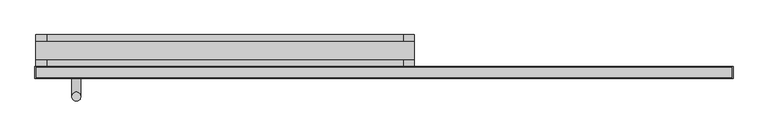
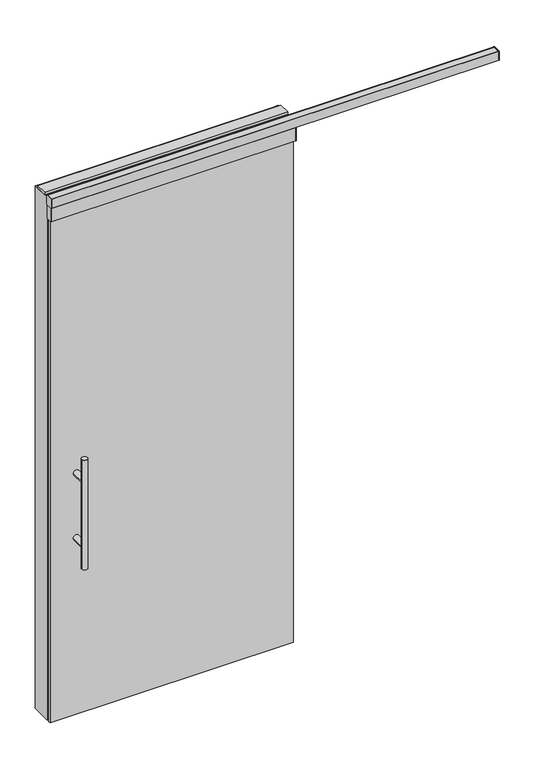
"""IFC4 building model written with IfcOpenShell, lengths in millimetres: furniture geometry, Allsteel - Aspect - Door - Single - Sliding (10-04-24) : Allsteel - Aspect - Door - Single - Sliding (10-04-24)."""

from ifc_helpers import new_model, si_unit, frame, origin, origin_with_axes, place, context, project, spatial, polyline, circle_curve, ellipse_curve, outline, extrude, source, transform, mapped, element, save
from ifc_brep_helpers import plane_surface, cylinder_surface, advanced_brep


def furniture_55cdaa34(model_context):
    return source(origin(), model_context, "Body", "SolidModel", [
        advanced_brep(
        [(101.6, -130.175003, 717.55), (127.0, -130.175003, 717.55), (101.6, -130.175003, 1225.55), (127.0, -130.175003, 1225.55), (101.6, -130.175003, 821.2990101), (127.0, -130.175003, 821.2990101), (127.0, -130.175003, 1121.8183073), (101.6, -130.175003, 1121.8183073), (101.6, -66.675, 1121.8183073), (127.0, -66.675, 1121.8183073), (101.6, -66.675, 821.2990101), (127.0, -66.675, 821.2990101)],
        [
            (0, 1, circle_curve(frame((114.3, -130.175003, 717.55), z_axis=(0.0, 0.0, -1.0), x_axis=(1.0, 0.0, 0.0)), 12.7)),
            (1, 0, circle_curve(frame((114.3, -130.175003, 717.55), z_axis=(0.0, 0.0, -1.0), x_axis=(1.0, 0.0, 0.0)), 12.7)),
            (2, 3, circle_curve(frame((114.3, -130.175003, 1225.55), z_axis=(0.0, 0.0, 1.0), x_axis=(1.0, 0.0, 0.0)), 12.7)),
            (3, 2, circle_curve(frame((114.3, -130.175003, 1225.55), z_axis=(0.0, 0.0, 1.0), x_axis=(1.0, 0.0, 0.0)), 12.7)),
            (0, 4),
            (4, 5, ellipse_curve(frame((114.3, -130.175003, 821.2990101), z_axis=(0.0, -0.7071067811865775, -0.7071067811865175), x_axis=(0.0, 0.7071067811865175, -0.7071067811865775)), 17.9605122, 12.7)),
            (5, 1),
            (3, 6),
            (6, 7, ellipse_curve(frame((114.3, -130.175003, 1121.8183073), z_axis=(0.0, -0.7071067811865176, 0.7071067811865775), x_axis=(0.0, -0.7071067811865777, -0.7071067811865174)), 17.9605122, 12.7)),
            (7, 2),
            (7, 6, ellipse_curve(frame((114.3, -130.175003, 1121.8183073), z_axis=(0.0, -0.7071067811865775, -0.7071067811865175), x_axis=(0.0, 0.7071067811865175, -0.7071067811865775)), 17.9605122, 12.7)),
            (6, 5),
            (5, 4, ellipse_curve(frame((114.3, -130.175003, 821.2990101), z_axis=(0.0, -0.7071067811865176, 0.7071067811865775), x_axis=(0.0, -0.7071067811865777, -0.7071067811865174)), 17.9605122, 12.7)),
            (4, 7),
            (8, 9, circle_curve(frame((114.3, -66.675, 1121.8183073), z_axis=(0.0, 1.0, 0.0), x_axis=(1.0, 0.0, 0.0)), 12.7)),
            (9, 8, circle_curve(frame((114.3, -66.675, 1121.8183073), z_axis=(0.0, 1.0, 0.0), x_axis=(1.0, 0.0, 0.0)), 12.7)),
            (9, 6),
            (7, 8),
            (10, 11, circle_curve(frame((114.3, -66.675, 821.2990101), z_axis=(0.0, 1.0, 0.0), x_axis=(1.0, 0.0, 0.0)), 12.7)),
            (11, 10, circle_curve(frame((114.3, -66.675, 821.2990101), z_axis=(0.0, 1.0, 0.0), x_axis=(1.0, 0.0, 0.0)), 12.7)),
            (10, 4),
            (5, 11),
        ],
        [
            plane_surface(frame((127.0, -130.175003, 717.55), z_axis=(0.0, 0.0, -1.0), x_axis=(0.0, -1.0, 0.0))),
            plane_surface(frame((127.0, -130.175003, 1225.55), z_axis=(0.0, 0.0, 1.0), x_axis=(0.0, 1.0, 0.0))),
            cylinder_surface(frame((114.3, -130.175003, 1225.55), z_axis=(0.0, 0.0, -1.0), x_axis=(1.0, 0.0, 0.0)), 12.7),
            plane_surface(frame((127.0, -66.675, 1121.8183073), z_axis=(0.0, 1.0, 0.0), x_axis=(0.0, 0.0, -1.0))),
            cylinder_surface(frame((114.3, -66.675, 1121.8183073), z_axis=(0.0, -1.0, 0.0), x_axis=(1.0, 0.0, 0.0)), 12.7),
            plane_surface(frame((127.0, -66.675, 821.2990101), z_axis=(0.0, 1.0, 0.0), x_axis=(0.0, 0.0, -1.0))),
            cylinder_surface(frame((114.3, -66.675, 821.2990101), z_axis=(0.0, -1.0, 0.0), x_axis=(1.0, 0.0, 0.0)), 12.7),
        ],
        [
            (0, [[1, 2]]),
            (1, [[3, 4]]),
            (2, [[-1, 5, 6, 7]]),
            (2, [[-4, 8, 9, 10]]),
            (2, [[11, 12, 13, 14]]),
            (2, [[-2, -7, -12, -8, -3, -10, -14, -5]]),
            (3, [[15, 16]]),
            (4, [[-16, 17, -11, 18]]),
            (4, [[-15, -18, -9, -17]]),
            (5, [[19, 20]]),
            (6, [[-19, 21, -13, 22]]),
            (6, [[-20, -22, -6, -21]]),
        ],
    ),
        advanced_brep(
        [(101.6, 6.350003, 717.55), (127.0, 6.350003, 717.55), (101.6, 6.350003, 1225.55), (127.0, 6.350003, 1225.55), (101.6, 6.350003, 1121.8183073), (127.0, 6.350003, 1121.8183073), (101.6, 6.350003, 821.2990101), (127.0, 6.350003, 821.2990101), (101.6, -57.15, 1121.8183073), (127.0, -57.15, 1121.8183073), (101.6, -57.15, 821.2990101), (127.0, -57.15, 821.2990101)],
        [
            (0, 1, circle_curve(frame((114.3, 6.350003, 717.55), z_axis=(0.0, 0.0, -1.0), x_axis=(1.0, 0.0, 0.0)), 12.7)),
            (1, 0, circle_curve(frame((114.3, 6.350003, 717.55), z_axis=(0.0, 0.0, -1.0), x_axis=(1.0, 0.0, 0.0)), 12.7)),
            (2, 3, circle_curve(frame((114.3, 6.350003, 1225.55), z_axis=(0.0, 0.0, 1.0), x_axis=(1.0, 0.0, 0.0)), 12.7)),
            (3, 2, circle_curve(frame((114.3, 6.350003, 1225.55), z_axis=(0.0, 0.0, 1.0), x_axis=(1.0, 0.0, 0.0)), 12.7)),
            (2, 4),
            (4, 5, ellipse_curve(frame((114.3, 6.350003, 1121.8183073), z_axis=(0.0, 0.7071067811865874, 0.7071067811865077), x_axis=(0.0, 0.7071067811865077, -0.7071067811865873)), 17.9605122, 12.7)),
            (5, 3),
            (4, 6),
            (6, 7, ellipse_curve(frame((114.3, 6.350003, 821.2990101), z_axis=(0.0, 0.7071067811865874, 0.7071067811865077), x_axis=(0.0, 0.7071067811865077, -0.7071067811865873)), 17.9605122, 12.7)),
            (7, 5),
            (5, 4, ellipse_curve(frame((114.3, 6.350003, 1121.8183073), z_axis=(0.0, 0.7071067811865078, -0.7071067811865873), x_axis=(0.0, -0.7071067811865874, -0.7071067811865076)), 17.9605122, 12.7)),
            (1, 7),
            (7, 6, ellipse_curve(frame((114.3, 6.350003, 821.2990101), z_axis=(0.0, 0.7071067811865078, -0.7071067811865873), x_axis=(0.0, -0.7071067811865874, -0.7071067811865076)), 17.9605122, 12.7)),
            (6, 0),
            (8, 9, circle_curve(frame((114.3, -57.15, 1121.8183073), z_axis=(0.0, -1.0, 0.0), x_axis=(1.0, 0.0, 0.0)), 12.7)),
            (9, 8, circle_curve(frame((114.3, -57.15, 1121.8183073), z_axis=(0.0, -1.0, 0.0), x_axis=(1.0, 0.0, 0.0)), 12.7)),
            (8, 4),
            (5, 9),
            (10, 11, circle_curve(frame((114.3, -57.15, 821.2990101), z_axis=(0.0, -1.0, 0.0), x_axis=(1.0, 0.0, 0.0)), 12.7)),
            (11, 10, circle_curve(frame((114.3, -57.15, 821.2990101), z_axis=(0.0, -1.0, 0.0), x_axis=(1.0, 0.0, 0.0)), 12.7)),
            (11, 7),
            (6, 10),
        ],
        [
            plane_surface(frame((127.0, 6.350003, 717.55), z_axis=(0.0, 0.0, -1.0), x_axis=(0.0, 1.0, 0.0))),
            plane_surface(frame((127.0, 6.350003, 1225.55), z_axis=(0.0, 0.0, 1.0), x_axis=(0.0, -1.0, 0.0))),
            cylinder_surface(frame((114.3, 6.350003, 1225.55), z_axis=(0.0, 0.0, -1.0), x_axis=(1.0, 0.0, 0.0)), 12.7),
            plane_surface(frame((127.0, -57.15, 1121.8183073), z_axis=(0.0, -1.0, 0.0), x_axis=(0.0, 0.0, -1.0))),
            cylinder_surface(frame((114.3, -57.15, 1121.8183073), z_axis=(0.0, 1.0, 0.0), x_axis=(1.0, 0.0, 0.0)), 12.7),
            plane_surface(frame((127.0, -57.15, 821.2990101), z_axis=(0.0, -1.0, 0.0), x_axis=(0.0, 0.0, -1.0))),
            cylinder_surface(frame((114.3, -57.15, 821.2990101), z_axis=(0.0, 1.0, 0.0), x_axis=(1.0, 0.0, 0.0)), 12.7),
        ],
        [
            (0, [[1, 2]]),
            (1, [[3, 4]]),
            (2, [[5, 6, 7, -3]]),
            (2, [[8, 9, 10, 11]]),
            (2, [[12, 13, 14, -2]]),
            (2, [[-14, -8, -5, -4, -7, -10, -12, -1]]),
            (3, [[15, 16]]),
            (4, [[17, -11, 18, -15]]),
            (4, [[-18, -6, -17, -16]]),
            (5, [[19, 20]]),
            (6, [[21, -9, 22, -20]]),
            (6, [[-22, -13, -21, -19]]),
        ],
    ),
        extrude(outline(polyline([(-2.5399612, -45.0580237), (0.0, -45.0580237), (0.0, -78.7923987), (-2.5399612, -78.7923987), (-2.5399612, -45.0580237)])), frame((0.0, 0.0, 2395.6367187), z_axis=(0.0, 0.0, 1.0), x_axis=(1.0, 0.0, 0.0)), (0.0, 0.0, 1.0), 42.7632813),
        extrude(outline(polyline([(1964.6899612, -78.7923987), (1962.15, -78.7923987), (1962.15, -45.0580237), (1964.6899612, -45.0580237), (1964.6899612, -78.7923987)])), frame((0.0, 0.0, 2395.6367188), z_axis=(0.0, 0.0, 1.0), x_axis=(1.0, 0.0, 0.0)), (0.0, 0.0, 1.0), 42.7632813),
        extrude(outline(polyline([(1075.6823854, -76.2026964), (1073.1424242, -76.2026964), (1073.1424242, -47.6478714), (1075.6823854, -47.6478714), (1075.6823854, -76.2026964)])), frame((0.0, 0.0, 2332.0374031), z_axis=(0.0, 0.0, 1.0), x_axis=(1.0, 0.0, 0.0)), (0.0, 0.0, 1.0), 60.3250969),
        extrude(outline(polyline([(-2.5475371, -47.647726), (-0.0075758, -47.647726), (-0.0075758, -76.202551), (-2.5475371, -76.202551), (-2.5475371, -47.647726)])), frame((0.0, 0.0, 2332.0374031), z_axis=(0.0, 0.0, 1.0), x_axis=(1.0, 0.0, 0.0)), (0.0, 0.0, 1.0), 60.3250969),
        extrude(outline(polyline([(-53.0500126, 2392.3625), (-47.647726, 2392.3625), (-47.647726, 2332.0374031), (-55.7190084, 2332.0374031), (-55.7190084, 2339.9906967), (-54.1315084, 2339.9906967), (-54.1315084, 2333.6249031), (-49.235226, 2333.6249031), (-49.235226, 2358.9630852), (-55.7190084, 2358.9630852), (-55.7190084, 2370.1321709), (-68.1314139, 2370.1321709), (-68.1314139, 2358.9630852), (-74.6151964, 2358.9630852), (-74.6151964, 2333.6249031), (-69.7189139, 2333.6249031), (-69.7189139, 2339.9906967), (-68.1314139, 2339.9906967), (-68.1314139, 2332.0374031), (-76.2027054, 2332.0374031), (-76.2027054, 2392.3625), (-70.8004098, 2392.3625), (-70.8004098, 2390.775), (-74.6152054, 2390.775), (-74.6152054, 2382.4479889), (-49.235226, 2382.4479889), (-49.235226, 2390.775), (-53.0500126, 2390.775), (-53.0500126, 2392.3625)])), frame((-0.0075758, 0.0, 0.0), z_axis=(1.0, 0.0, 0.0), x_axis=(0.0, 1.0, 0.0)), (0.0, 0.0, 1.0), 1073.15),
        extrude(outline(polyline([(-46.5923262, 2438.4), (-45.0698174, 2438.4), (-45.0698174, 2395.6014496), (-55.0469701, 2395.6014496), (-55.0469701, 2397.1889496), (-46.6573174, 2397.1889496), (-46.6573174, 2434.7780312), (-77.1930959, 2434.7780312), (-77.1930959, 2397.1889496), (-68.8034523, 2397.1889496), (-68.8034523, 2395.6014496), (-78.7805959, 2395.6014496), (-78.7805959, 2438.4), (-77.2580871, 2438.4), (-77.2580871, 2436.3655312), (-46.5923262, 2436.3655312), (-46.5923262, 2438.4)])), frame((0.0, 0.0, 0.0), z_axis=(1.0, 0.0, 0.0), x_axis=(0.0, 1.0, 0.0)), (0.0, 0.0, 1.0), 1962.15),
        extrude(outline(polyline([(1066.8, -25.4), (0.0, -25.4), (0.0, 25.4), (1066.8, 25.4), (1066.8, -25.4)])), frame((0.0, 0.0, 2425.7), z_axis=(0.0, 0.0, 1.0), x_axis=(1.0, 0.0, 0.0)), (0.0, 0.0, 1.0), 12.7),
        extrude(outline(polyline([(1066.8, 44.45), (1066.8, -44.45), (1036.6375, -44.45), (1036.6375, 44.45), (1066.8, 44.45)])), origin_with_axes(), (0.0, 0.0, 1.0), 2425.7),
        extrude(outline(polyline([(0.0, 44.45), (30.1625, 44.45), (30.1625, -44.45), (0.0, -44.45), (0.0, 44.45)])), origin_with_axes(), (0.0, 0.0, 1.0), 2425.7),
        extrude(outline(polyline([(1066.8, -57.15), (1066.8, -66.675), (0.0, -66.675), (0.0, -57.15), (1066.8, -57.15)])), origin_with_axes(), (0.0, 0.0, 1.0), 2362.2),
        extrude(outline(polyline([(-44.45, 2425.7), (44.45, 2425.7), (44.45, 2366.6452086), (-44.45, 2392.0498958), (-44.45, 2425.7)])), frame((30.1625, 0.0, 0.0), z_axis=(1.0, 0.0, 0.0), x_axis=(0.0, 1.0, 0.0)), (0.0, 0.0, 1.0), 1006.475),
    ])


if __name__ == "__main__":
    model = new_model("IFC4")
    model_context = context("Model", 3, world=origin())
    ifc_project = project(units=[si_unit("LENGTHUNIT", "METRE", prefix="MILLI")], contexts=[model_context])
    site = spatial("IfcSite", under=ifc_project)
    building = spatial("IfcBuilding", under=site)
    placement = place(None, origin())
    furniture_shape = furniture_55cdaa34(model_context)
    element("IfcFurniture", 1, ObjectType="Allsteel - Aspect - Door - Single - Sliding (10-04-24) : Allsteel - Aspect - Door - Single - Sliding (10-04-24)", at=placement, inside=building, context=model_context, shape_type="MappedRepresentation", body=[
        mapped(furniture_shape, transform((0.0, 0.0, 0.0), x_axis=(1.0, 0.0, 0.0), y_axis=(0.0, 1.0, 0.0), z_axis=(0.0, 0.0, 1.0))),
    ])
    save(model, "model.ifc")
